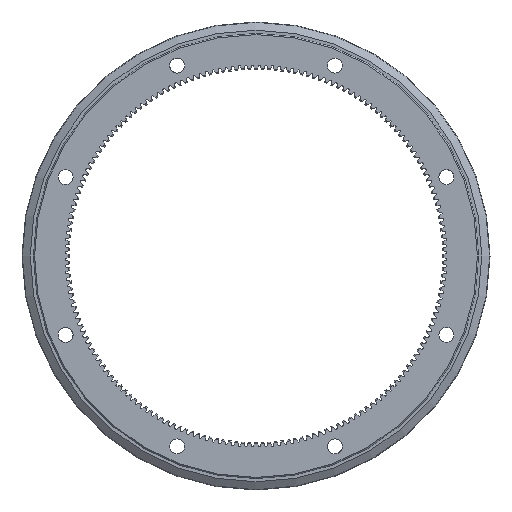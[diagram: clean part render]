
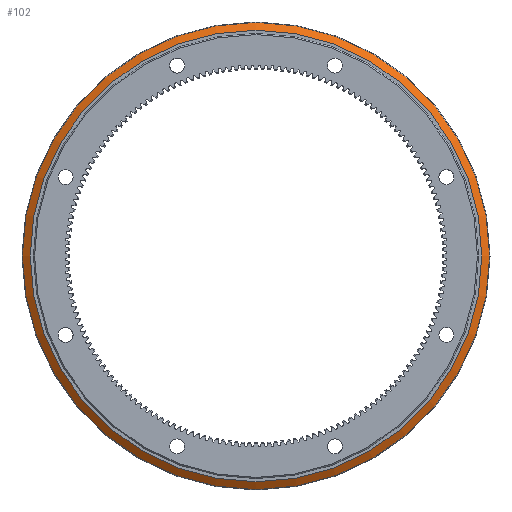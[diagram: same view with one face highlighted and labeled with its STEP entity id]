
A CAD part, front view. The second image highlights one B-rep face of the part: STEP entity #102.
In plain terms, the highlighted conical face has half-angle 55 degrees and reference radius 77.879 mm.
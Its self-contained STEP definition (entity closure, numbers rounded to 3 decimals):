
#102=ADVANCED_FACE('',(#1071,#1072),#1073,.T.);
#1071=FACE_BOUND('',#2989,.T.);
#1072=FACE_OUTER_BOUND('',#2990,.T.);
#1073=CONICAL_SURFACE('',#2991,77.879,0.96);
#2989=EDGE_LOOP('',(#6363));
#2990=EDGE_LOOP('',(#6364));
#2991=AXIS2_PLACEMENT_3D('',#6365,#6366,#6367);
#6363=ORIENTED_EDGE('',*,*,#14614,.F.);
#6364=ORIENTED_EDGE('',*,*,#14615,.T.);
#6365=CARTESIAN_POINT('',(0.0,7.576,0.0));
#6366=DIRECTION('',(-0.0,1.0,-0.0));
#6367=DIRECTION('',(0.0,0.0,1.0));
#14614=EDGE_CURVE('',#18821,#18821,#18822,.T.);
#14615=EDGE_CURVE('',#18823,#18823,#18824,.T.);
#18821=VERTEX_POINT('',#24123);
#18822=CIRCLE('',#24124,75.343);
#18823=VERTEX_POINT('',#24125);
#18824=CIRCLE('',#24126,77.879);
#24123=CARTESIAN_POINT('',(0.0,5.8,-75.343));
#24124=AXIS2_PLACEMENT_3D('',#30555,#30556,#30557);
#24125=CARTESIAN_POINT('',(0.0,7.576,-77.879));
#24126=AXIS2_PLACEMENT_3D('',#30558,#30559,#30560);
#30555=CARTESIAN_POINT('',(0.0,5.8,0.0));
#30556=DIRECTION('',(0.0,-1.0,0.0));
#30557=DIRECTION('',(0.0,0.0,-1.0));
#30558=CARTESIAN_POINT('',(0.0,7.576,0.0));
#30559=DIRECTION('',(0.0,-1.0,0.0));
#30560=DIRECTION('',(0.0,0.0,-1.0));
